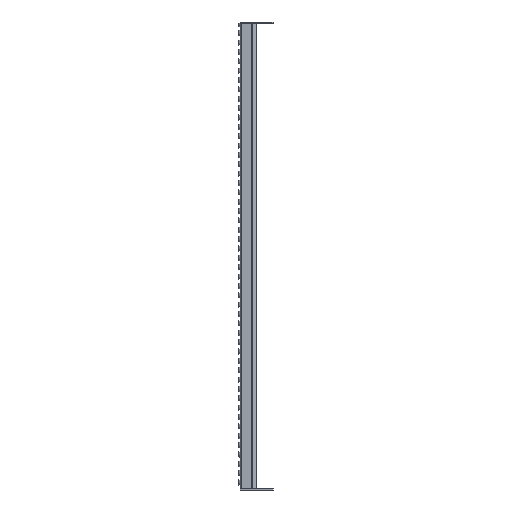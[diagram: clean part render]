
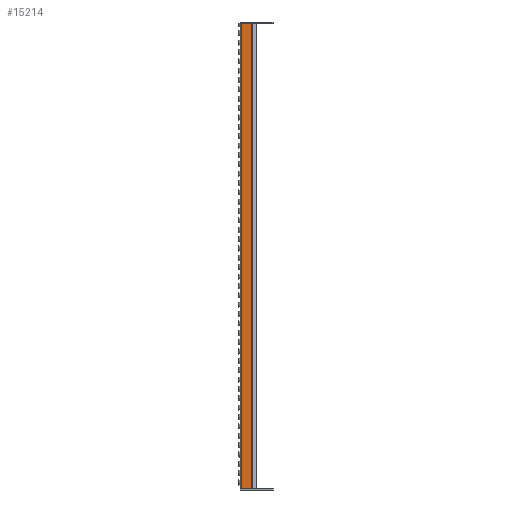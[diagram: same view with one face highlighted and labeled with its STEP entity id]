
A CAD part, left-side view. The second image highlights one B-rep face of the part: STEP entity #15214.
In plain terms, the highlighted planar face has unit normal (-1, 0, 0).
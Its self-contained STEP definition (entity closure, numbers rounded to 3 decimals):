
#2265=FACE_OUTER_BOUND('',#3468,.T.);
#3468=EDGE_LOOP('',(#13129,#13130,#13131,#13132));
#4599=LINE('',#29609,#6007);
#4610=LINE('',#29639,#6018);
#4620=LINE('',#29662,#6028);
#4627=LINE('',#29677,#6035);
#6007=VECTOR('',#20405,10.);
#6018=VECTOR('',#20430,10.);
#6028=VECTOR('',#20452,10.);
#6035=VECTOR('',#20471,10.);
#7548=VERTEX_POINT('',#29606);
#7549=VERTEX_POINT('',#29608);
#7561=VERTEX_POINT('',#29638);
#7568=VERTEX_POINT('',#29661);
#9433=EDGE_CURVE('',#7549,#7548,#4599,.T.);
#9448=EDGE_CURVE('',#7548,#7561,#4610,.T.);
#9460=EDGE_CURVE('',#7568,#7549,#4620,.T.);
#9468=EDGE_CURVE('',#7561,#7568,#4627,.T.);
#13129=ORIENTED_EDGE('',*,*,#9448,.T.);
#13130=ORIENTED_EDGE('',*,*,#9468,.T.);
#13131=ORIENTED_EDGE('',*,*,#9460,.T.);
#13132=ORIENTED_EDGE('',*,*,#9433,.T.);
#14237=PLANE('',#16779);
#15214=ADVANCED_FACE('',(#2265),#14237,.T.);
#16779=AXIS2_PLACEMENT_3D('',#29678,#20472,#20473);
#20405=DIRECTION('',(0.,1.,0.));
#20430=DIRECTION('',(0.,0.,-1.));
#20452=DIRECTION('',(0.,0.,1.));
#20471=DIRECTION('',(0.,-1.,0.));
#20472=DIRECTION('center_axis',(-1.,0.,0.));
#20473=DIRECTION('ref_axis',(0.,0.,1.));
#29606=CARTESIAN_POINT('',(0.,-3.25,994.));
#29608=CARTESIAN_POINT('',(0.,-24.427,994.));
#29609=CARTESIAN_POINT('',(0.,0.,994.));
#29638=CARTESIAN_POINT('',(0.,-3.25,0.));
#29639=CARTESIAN_POINT('',(0.,-3.25,0.));
#29661=CARTESIAN_POINT('',(0.,-24.427,0.));
#29662=CARTESIAN_POINT('',(0.,-24.427,248.5));
#29677=CARTESIAN_POINT('',(0.,0.,0.));
#29678=CARTESIAN_POINT('Origin',(0.,-25.,0.));
